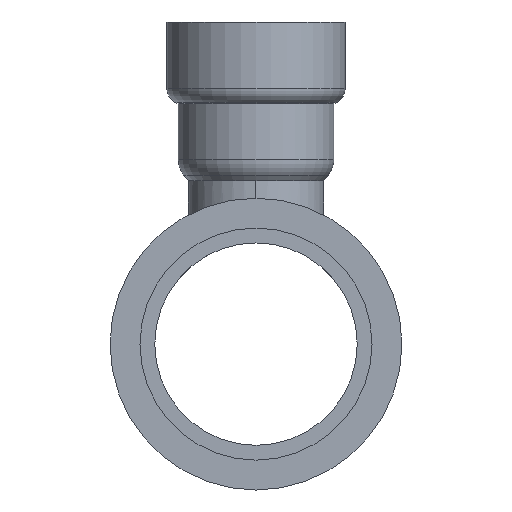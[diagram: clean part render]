
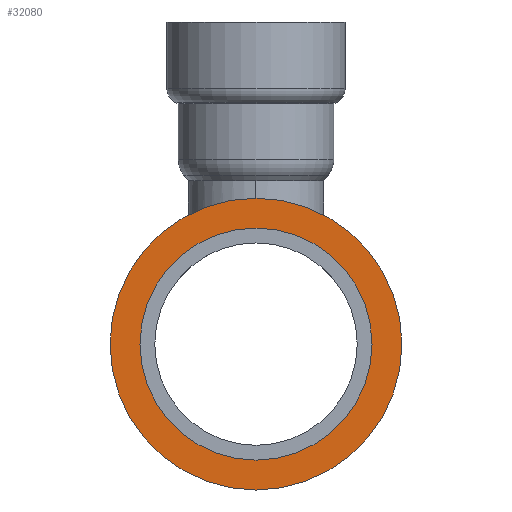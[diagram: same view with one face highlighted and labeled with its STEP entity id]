
A CAD part, left-side view. The second image highlights one B-rep face of the part: STEP entity #32080.
In plain terms, the highlighted planar face has unit normal (-1, 0, 0).
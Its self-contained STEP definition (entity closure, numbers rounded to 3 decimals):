
#31600=CARTESIAN_POINT('',(18.834,89.479,0.)
);
#31610=VERTEX_POINT('',#31600);
#31690=CARTESIAN_POINT('',(18.834,40.179,0.))
;
#31700=VERTEX_POINT('',#31690);
#31730=CARTESIAN_POINT('',(18.834,64.829,0.))
;
#31740=DIRECTION('',(1.,0.,0.));
#31750=DIRECTION('',(0.,1.,0.));
#31760=AXIS2_PLACEMENT_3D('',#31730,#31740,#31750);
#31770=CIRCLE('',#31760,24.65);
#31780=EDGE_CURVE('',#31700,#31610,#31770,.T.);
#31830=CARTESIAN_POINT('',(18.834,94.129,0.)
);
#31840=DIRECTION('',(1.,-0.,0.));
#31850=DIRECTION('',(0.,1.,0.));
#31860=AXIS2_PLACEMENT_3D('',#31830,#31840,#31850);
#31870=PLANE('',#31860);
#31880=EDGE_CURVE('',#31610,#31700,#31770,.T.);
#31890=ORIENTED_EDGE('',*,*,#31880,.T.);
#31900=ORIENTED_EDGE('',*,*,#31780,.T.);
#31910=EDGE_LOOP('',(#31900,#31890));
#31920=FACE_BOUND('',#31910,.T.);
#31930=CARTESIAN_POINT('',(18.834,64.829,0.))
;
#31940=DIRECTION('',(1.,0.,0.));
#31950=DIRECTION('',(0.,-1.,0.));
#31960=AXIS2_PLACEMENT_3D('',#31930,#31940,#31950);
#31970=CIRCLE('',#31960,31.);
#31980=CARTESIAN_POINT('',(18.834,33.829,
0.));
#31990=VERTEX_POINT('',#31980);
#32000=CARTESIAN_POINT('',(18.834,95.829,
0.));
#32010=VERTEX_POINT('',#32000);
#32020=EDGE_CURVE('',#31990,#32010,#31970,.T.);
#32030=ORIENTED_EDGE('',*,*,#32020,.F.);
#32040=EDGE_CURVE('',#32010,#31990,#31970,.T.);
#32050=ORIENTED_EDGE('',*,*,#32040,.F.);
#32060=EDGE_LOOP('',(#32050,#32030));
#32070=FACE_OUTER_BOUND('',#32060,.T.);
#32080=ADVANCED_FACE('',(#31920,#32070),#31870,.F.);
